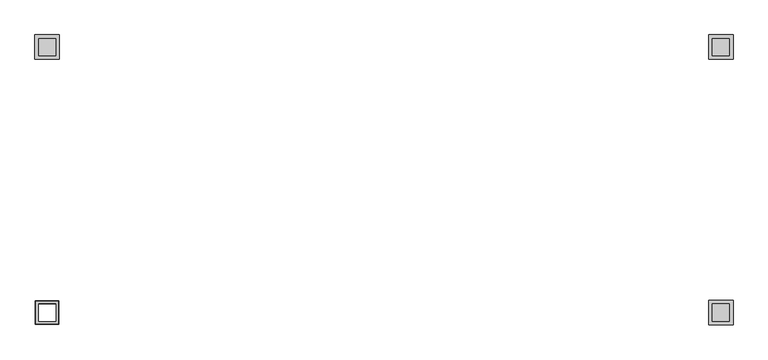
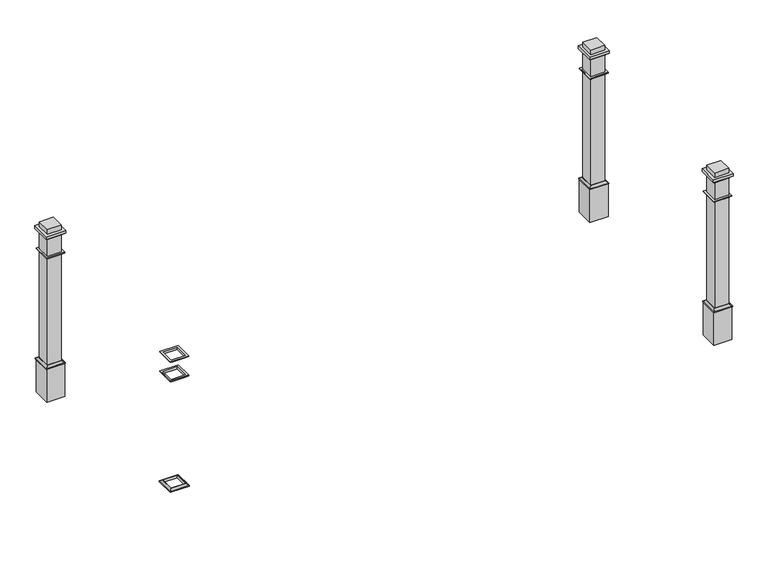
"""IFC4 building model written with IfcOpenShell, lengths in millimetres: railing geometry, Deco Type."""

from ifc_helpers import new_model, si_unit, frame, origin, place, context, project, spatial, polyline, ellipse_curve, outline, extrude, faceted_brep, source, transform, mapped, element, save
from ifc_brep_helpers import plane_surface, revolved_surface, advanced_brep


def railing_35e16d99(model_context):
    return source(origin(), model_context, "Body", "SolidModel", [
        advanced_brep(
        [(5407.8905852, -9796.5505549, 3149.6), (5287.2405852, -9796.5505549, 3149.6), (5287.2405852, -9796.5505549, 3171.825), (5407.8905852, -9796.5505549, 3171.825), (5430.1155852, -9818.7755549, 3155.95), (5265.0155852, -9818.7755549, 3155.95), (5265.0155852, -9818.7755549, 3149.6), (5430.1155852, -9818.7755549, 3149.6), (5414.2405852, -9802.9005549, 3171.825), (5280.8905852, -9802.9005549, 3171.825), (5287.2405852, -9675.9005549, 3149.6), (5287.2405852, -9675.9005549, 3171.825), (5265.0155852, -9653.6755549, 3155.95), (5265.0155852, -9653.6755549, 3149.6), (5280.8905852, -9669.5505549, 3171.825), (5407.8905852, -9675.9005549, 3149.6), (5407.8905852, -9675.9005549, 3171.825), (5430.1155852, -9653.6755549, 3155.95), (5430.1155852, -9653.6755549, 3149.6), (5414.2405852, -9669.5505549, 3171.825)],
        [
            (0, 1),
            (1, 2),
            (2, 3),
            (3, 0),
            (4, 5),
            (5, 6),
            (6, 7),
            (7, 4),
            (8, 9),
            (9, 5, ellipse_curve(frame((5265.0155852, -9818.7755549, 3171.825), z_axis=(-0.7071067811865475, 0.7071067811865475, 0.0), x_axis=(-0.7071067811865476, -0.7071067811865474, 0.0)), 22.4506403, 15.875)),
            (4, 8, ellipse_curve(frame((5430.1155852, -9818.7755549, 3171.825), z_axis=(0.7071067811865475, 0.7071067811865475, 0.0), x_axis=(-0.7071067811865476, 0.7071067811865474, 0.0)), 22.4506403, 15.875)),
            (1, 10),
            (10, 11),
            (11, 2),
            (5, 12),
            (12, 13),
            (13, 6),
            (9, 14),
            (14, 12, ellipse_curve(frame((5265.0155852, -9653.6755549, 3171.825), z_axis=(0.7071067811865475, 0.7071067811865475, 0.0), x_axis=(-0.7071067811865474, 0.7071067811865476, 0.0)), 22.4506403, 15.875)),
            (10, 15),
            (15, 16),
            (16, 11),
            (12, 17),
            (17, 18),
            (18, 13),
            (14, 19),
            (19, 17, ellipse_curve(frame((5430.1155852, -9653.6755549, 3171.825), z_axis=(0.7071067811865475, -0.7071067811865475, 0.0), x_axis=(0.7071067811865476, 0.7071067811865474, 0.0)), 22.4506403, 15.875)),
            (15, 0),
            (3, 16),
            (18, 7),
            (17, 4),
            (19, 8),
        ],
        [
            plane_surface(frame((5407.8905852, -9796.5505549, 3171.825), z_axis=(0.0, 1.0, 0.0), x_axis=(-1.0, 0.0, 0.0))),
            plane_surface(frame((5430.1155852, -9818.7755549, 3149.6), z_axis=(0.0, -1.0, 0.0), x_axis=(-1.0, 0.0, 0.0))),
            revolved_surface(polyline([(5249.14058520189, -9802.9005549, 3171.825), (5445.99058519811, -9802.9005549, 3171.825)]), (5407.8905852, -9818.7755549, 3171.825), (-1.0, 0.0, 0.0)),
            plane_surface(frame((5287.2405852, -9796.5505549, 3171.825), z_axis=(1.0, 0.0, 0.0), x_axis=(0.0, 1.0, 0.0))),
            plane_surface(frame((5265.0155852, -9818.7755549, 3149.6), z_axis=(-1.0, 0.0, 0.0), x_axis=(0.0, 1.0, 0.0))),
            revolved_surface(polyline([(5280.8905852, -9637.80055490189, 3171.825), (5280.8905852, -9834.65055489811, 3171.825)]), (5265.0155852, -9796.5505549, 3171.825), (0.0, 1.0, 0.0)),
            plane_surface(frame((5287.2405852, -9675.9005549, 3171.825), z_axis=(0.0, -1.0, 0.0), x_axis=(1.0, 0.0, 0.0))),
            plane_surface(frame((5265.0155852, -9653.6755549, 3149.6), z_axis=(0.0, 1.0, 0.0), x_axis=(1.0, 0.0, 0.0))),
            revolved_surface(polyline([(5445.99058519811, -9669.5505549, 3171.825), (5249.14058520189, -9669.5505549, 3171.825)]), (5287.2405852, -9653.6755549, 3171.825), (1.0, 0.0, 0.0)),
            plane_surface(frame((5407.8905852, -9675.9005549, 3171.825), z_axis=(-1.0, 0.0, 0.0), x_axis=(0.0, -1.0, 0.0))),
            plane_surface(frame((5407.8905852, -9675.9005549, 3149.6), z_axis=(0.0, 0.0, -1.0), x_axis=(0.0, -1.0, 0.0))),
            plane_surface(frame((5430.1155852, -9653.6755549, 3149.6), z_axis=(1.0, 0.0, 0.0), x_axis=(0.0, -1.0, 0.0))),
            revolved_surface(polyline([(5414.2405852, -9834.65055489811, 3171.825), (5414.2405852, -9637.80055490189, 3171.825)]), (5430.1155852, -9675.9005549, 3171.825), (0.0, -1.0, 0.0)),
            plane_surface(frame((5414.2405852, -9669.5505549, 3171.825), z_axis=(0.0, 0.0, 1.0), x_axis=(0.0, -1.0, 0.0))),
        ],
        [
            (0, [[1, 2, 3, 4]]),
            (1, [[5, 6, 7, 8]]),
            (2, [[9, 10, -5, 11]]),
            (3, [[12, 13, 14, -2]]),
            (4, [[15, 16, 17, -6]]),
            (5, [[18, 19, -15, -10]]),
            (6, [[20, 21, 22, -13]]),
            (7, [[23, 24, 25, -16]]),
            (8, [[26, 27, -23, -19]]),
            (9, [[28, -4, 29, -21]]),
            (10, [[-7, -17, -25, 30], [-1, -28, -20, -12]]),
            (11, [[31, -8, -30, -24]]),
            (12, [[32, -11, -31, -27]]),
            (13, [[-9, -32, -26, -18], [-3, -14, -22, -29]]),
        ],
    ),
        advanced_brep(
        [(5407.8905852, -9796.5505549, 4156.075), (5287.2405852, -9796.5505549, 4156.075), (5287.2405852, -9796.5505549, 4175.125), (5407.8905852, -9796.5505549, 4175.125), (5426.9405852, -9815.6005549, 4168.775), (5268.1905852, -9815.6005549, 4168.775), (5280.8905852, -9802.9005549, 4156.075), (5414.2405852, -9802.9005549, 4156.075), (5426.9405852, -9815.6005549, 4175.125), (5268.1905852, -9815.6005549, 4175.125), (5287.2405852, -9675.9005549, 4156.075), (5287.2405852, -9675.9005549, 4175.125), (5268.1905852, -9656.8505549, 4168.775), (5280.8905852, -9669.5505549, 4156.075), (5268.1905852, -9656.8505549, 4175.125), (5407.8905852, -9675.9005549, 4156.075), (5407.8905852, -9675.9005549, 4175.125), (5426.9405852, -9656.8505549, 4168.775), (5414.2405852, -9669.5505549, 4156.075), (5426.9405852, -9656.8505549, 4175.125)],
        [
            (0, 1),
            (1, 2),
            (2, 3),
            (3, 0),
            (4, 5),
            (5, 6, ellipse_curve(frame((5268.1905852, -9815.6005549, 4156.075), z_axis=(-0.7071067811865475, 0.7071067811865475, 0.0), x_axis=(-0.7071067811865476, -0.7071067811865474, 0.0)), 17.9605122, 12.7)),
            (6, 7),
            (7, 4, ellipse_curve(frame((5426.9405852, -9815.6005549, 4156.075), z_axis=(0.7071067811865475, 0.7071067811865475, 0.0), x_axis=(-0.7071067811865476, 0.7071067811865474, 0.0)), 17.9605122, 12.7)),
            (8, 9),
            (9, 5),
            (4, 8),
            (1, 10),
            (10, 11),
            (11, 2),
            (5, 12),
            (12, 13, ellipse_curve(frame((5268.1905852, -9656.8505549, 4156.075), z_axis=(0.7071067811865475, 0.7071067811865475, 0.0), x_axis=(-0.7071067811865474, 0.7071067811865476, 0.0)), 17.9605122, 12.7)),
            (13, 6),
            (9, 14),
            (14, 12),
            (10, 15),
            (15, 16),
            (16, 11),
            (12, 17),
            (17, 18, ellipse_curve(frame((5426.9405852, -9656.8505549, 4156.075), z_axis=(0.7071067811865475, -0.7071067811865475, 0.0), x_axis=(0.7071067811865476, 0.7071067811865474, 0.0)), 17.9605122, 12.7)),
            (18, 13),
            (14, 19),
            (19, 17),
            (8, 19),
            (16, 3),
            (15, 0),
            (18, 7),
            (17, 4),
        ],
        [
            plane_surface(frame((5407.8905852, -9796.5505549, 4175.125), z_axis=(0.0, 1.0, 0.0), x_axis=(-1.0, 0.0, 0.0))),
            revolved_surface(polyline([(5255.490585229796, -9802.9005549, 4156.075), (5439.640585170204, -9802.9005549, 4156.075)]), (5407.8905852, -9815.6005549, 4156.075), (-1.0, 0.0, 0.0)),
            plane_surface(frame((5426.9405852, -9815.6005549, 4168.775), z_axis=(0.0, -1.0, 0.0), x_axis=(-1.0, 0.0, 0.0))),
            plane_surface(frame((5287.2405852, -9796.5505549, 4175.125), z_axis=(1.0, 0.0, 0.0), x_axis=(0.0, 1.0, 0.0))),
            revolved_surface(polyline([(5280.8905852, -9644.150554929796, 4156.075), (5280.8905852, -9828.300554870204, 4156.075)]), (5268.1905852, -9796.5505549, 4156.075), (0.0, 1.0, 0.0)),
            plane_surface(frame((5268.1905852, -9815.6005549, 4168.775), z_axis=(-1.0, 0.0, 0.0), x_axis=(0.0, 1.0, 0.0))),
            plane_surface(frame((5287.2405852, -9675.9005549, 4175.125), z_axis=(0.0, -1.0, 0.0), x_axis=(1.0, 0.0, 0.0))),
            revolved_surface(polyline([(5439.640585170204, -9669.5505549, 4156.075), (5255.490585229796, -9669.5505549, 4156.075)]), (5287.2405852, -9656.8505549, 4156.075), (1.0, 0.0, 0.0)),
            plane_surface(frame((5268.1905852, -9656.8505549, 4168.775), z_axis=(0.0, 1.0, 0.0), x_axis=(1.0, 0.0, 0.0))),
            plane_surface(frame((5426.9405852, -9656.8505549, 4175.125), z_axis=(0.0, 0.0, 1.0), x_axis=(0.0, -1.0, 0.0))),
            plane_surface(frame((5407.8905852, -9675.9005549, 4175.125), z_axis=(-1.0, 0.0, 0.0), x_axis=(0.0, -1.0, 0.0))),
            plane_surface(frame((5407.8905852, -9675.9005549, 4156.075), z_axis=(0.0, 0.0, -1.0), x_axis=(0.0, -1.0, 0.0))),
            revolved_surface(polyline([(5414.2405852, -9828.300554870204, 4156.075), (5414.2405852, -9644.150554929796, 4156.075)]), (5426.9405852, -9675.9005549, 4156.075), (0.0, -1.0, 0.0)),
            plane_surface(frame((5426.9405852, -9656.8505549, 4168.775), z_axis=(1.0, 0.0, 0.0), x_axis=(0.0, -1.0, 0.0))),
        ],
        [
            (0, [[1, 2, 3, 4]]),
            (1, [[5, 6, 7, 8]]),
            (2, [[9, 10, -5, 11]]),
            (3, [[12, 13, 14, -2]]),
            (4, [[15, 16, 17, -6]]),
            (5, [[18, 19, -15, -10]]),
            (6, [[20, 21, 22, -13]]),
            (7, [[23, 24, 25, -16]]),
            (8, [[26, 27, -23, -19]]),
            (9, [[-9, 28, -26, -18], [-3, -14, -22, 29]]),
            (10, [[30, -4, -29, -21]]),
            (11, [[-7, -17, -25, 31], [-1, -30, -20, -12]]),
            (12, [[32, -8, -31, -24]]),
            (13, [[-28, -11, -32, -27]]),
        ],
    ),
        faceted_brep([(5407.8905852, -9796.5505549, 4333.875), (5287.2405852, -9796.5505549, 4333.875), (5287.2405852, -9796.5505549, 4352.925), (5407.8905852, -9796.5505549, 4352.925), (5414.2405852, -9802.9005549, 4346.575), (5280.8905852, -9802.9005549, 4346.575), (5280.8905852, -9802.9005549, 4333.875), (5414.2405852, -9802.9005549, 4333.875), (5426.9405852, -9815.6005549, 4352.925), (5268.1905852, -9815.6005549, 4352.925), (5268.1905852, -9815.6005549, 4346.575), (5426.9405852, -9815.6005549, 4346.575), (5287.2405852, -9675.9005549, 4333.875), (5287.2405852, -9675.9005549, 4352.925), (5280.8905852, -9669.5505549, 4346.575), (5280.8905852, -9669.5505549, 4333.875), (5268.1905852, -9656.8505549, 4352.925), (5268.1905852, -9656.8505549, 4346.575), (5407.8905852, -9675.9005549, 4333.875), (5407.8905852, -9675.9005549, 4352.925), (5414.2405852, -9669.5505549, 4346.575), (5414.2405852, -9669.5505549, 4333.875), (5426.9405852, -9656.8505549, 4352.925), (5426.9405852, -9656.8505549, 4346.575)], [[[0, 1, 2, 3]], [[4, 5, 6, 7]], [[8, 9, 10, 11]], [[1, 12, 13, 2]], [[5, 14, 15, 6]], [[9, 16, 17, 10]], [[12, 18, 19, 13]], [[14, 20, 21, 15]], [[16, 22, 23, 17]], [[18, 0, 3, 19]], [[7, 6, 15, 21], [1, 0, 18, 12]], [[20, 4, 7, 21]], [[11, 10, 17, 23], [5, 4, 20, 14]], [[22, 8, 11, 23]], [[9, 8, 22, 16], [3, 2, 13, 19]]]),
        extrude(outline(polyline([(10010.8468352, -9656.8505549), (10169.5968352, -9656.8505549), (10169.5968352, -9815.6005549), (10010.8468352, -9815.6005549), (10010.8468352, -9656.8505549)])), frame((0.0, 0.0, 2844.8), z_axis=(0.0, 0.0, 1.0), x_axis=(1.0, 0.0, 0.0)), (0.0, 0.0, 1.0), 304.8),
        extrude(outline(polyline([(10029.8968352, -9675.9005549), (10150.5468352, -9675.9005549), (10150.5468352, -9796.5505549), (10029.8968352, -9796.5505549), (10029.8968352, -9675.9005549)])), frame((0.0, 0.0, 3149.6), z_axis=(0.0, 0.0, 1.0), x_axis=(1.0, 0.0, 0.0)), (0.0, 0.0, 1.0), 1270.0),
        extrude(outline(polyline([(10175.9468352, -9650.5005549), (10175.9468352, -9821.9505549), (10004.4968352, -9821.9505549), (10004.4968352, -9650.5005549), (10175.9468352, -9650.5005549)]), holes=[polyline([(10150.5468352, -9796.5505549), (10150.5468352, -9675.9005549), (10029.8968352, -9675.9005549), (10029.8968352, -9796.5505549), (10150.5468352, -9796.5505549)])]), frame((0.0, 0.0, 4352.925), z_axis=(0.0, 0.0, 1.0), x_axis=(1.0, 0.0, 0.0)), (0.0, 0.0, 1.0), 25.4),
        advanced_brep(
        [(10150.5468352, -9675.9005549, 3149.6), (10150.5468352, -9796.5505549, 3149.6), (10150.5468352, -9796.5505549, 3171.825), (10150.5468352, -9675.9005549, 3171.825), (10172.7718352, -9653.6755549, 3155.95), (10172.7718352, -9818.7755549, 3155.95), (10172.7718352, -9818.7755549, 3149.6), (10172.7718352, -9653.6755549, 3149.6), (10156.8968352, -9669.5505549, 3171.825), (10156.8968352, -9802.9005549, 3171.825), (10029.8968352, -9796.5505549, 3149.6), (10029.8968352, -9796.5505549, 3171.825), (10007.6718352, -9818.7755549, 3155.95), (10007.6718352, -9818.7755549, 3149.6), (10023.5468352, -9802.9005549, 3171.825), (10029.8968352, -9675.9005549, 3149.6), (10029.8968352, -9675.9005549, 3171.825), (10007.6718352, -9653.6755549, 3155.95), (10007.6718352, -9653.6755549, 3149.6), (10023.5468352, -9669.5505549, 3171.825)],
        [
            (0, 1),
            (1, 2),
            (2, 3),
            (3, 0),
            (4, 5),
            (5, 6),
            (6, 7),
            (7, 4),
            (8, 9),
            (9, 5, ellipse_curve(frame((10172.7718352, -9818.7755549, 3171.825), z_axis=(-0.7071067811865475, -0.7071067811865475, 0.0), x_axis=(0.7071067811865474, -0.7071067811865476, 0.0)), 22.4506403, 15.875)),
            (4, 8, ellipse_curve(frame((10172.7718352, -9653.6755549, 3171.825), z_axis=(-0.7071067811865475, 0.7071067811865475, 0.0), x_axis=(-0.7071067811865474, -0.7071067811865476, 0.0)), 22.4506403, 15.875)),
            (1, 10),
            (10, 11),
            (11, 2),
            (5, 12),
            (12, 13),
            (13, 6),
            (9, 14),
            (14, 12, ellipse_curve(frame((10007.6718352, -9818.7755549, 3171.825), z_axis=(-0.7071067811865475, 0.7071067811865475, 0.0), x_axis=(-0.7071067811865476, -0.7071067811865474, 0.0)), 22.4506403, 15.875)),
            (10, 15),
            (15, 16),
            (16, 11),
            (12, 17),
            (17, 18),
            (18, 13),
            (14, 19),
            (19, 17, ellipse_curve(frame((10007.6718352, -9653.6755549, 3171.825), z_axis=(0.7071067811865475, 0.7071067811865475, 0.0), x_axis=(-0.7071067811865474, 0.7071067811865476, 0.0)), 22.4506403, 15.875)),
            (15, 0),
            (3, 16),
            (18, 7),
            (17, 4),
            (19, 8),
        ],
        [
            plane_surface(frame((10150.5468352, -9675.9005549, 3171.825), z_axis=(-1.0, 0.0, 0.0), x_axis=(0.0, -1.0, 0.0))),
            plane_surface(frame((10172.7718352, -9653.6755549, 3149.6), z_axis=(1.0, 0.0, 0.0), x_axis=(0.0, -1.0, 0.0))),
            revolved_surface(polyline([(10156.8968352, -9834.65055489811, 3171.825), (10156.8968352, -9637.80055490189, 3171.825)]), (10172.7718352, -9675.9005549, 3171.825), (0.0, -1.0, 0.0)),
            plane_surface(frame((10150.5468352, -9796.5505549, 3171.825), z_axis=(0.0, 1.0, 0.0), x_axis=(-1.0, 0.0, 0.0))),
            plane_surface(frame((10172.7718352, -9818.7755549, 3149.6), z_axis=(0.0, -1.0, 0.0), x_axis=(-1.0, 0.0, 0.0))),
            revolved_surface(polyline([(9991.79683520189, -9802.9005549, 3171.825), (10188.64683519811, -9802.9005549, 3171.825)]), (10150.5468352, -9818.7755549, 3171.825), (-1.0, 0.0, 0.0)),
            plane_surface(frame((10029.8968352, -9796.5505549, 3171.825), z_axis=(1.0, 0.0, 0.0), x_axis=(0.0, 1.0, 0.0))),
            plane_surface(frame((10007.6718352, -9818.7755549, 3149.6), z_axis=(-1.0, 0.0, 0.0), x_axis=(0.0, 1.0, 0.0))),
            revolved_surface(polyline([(10023.5468352, -9637.80055490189, 3171.825), (10023.5468352, -9834.65055489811, 3171.825)]), (10007.6718352, -9796.5505549, 3171.825), (0.0, 1.0, 0.0)),
            plane_surface(frame((10029.8968352, -9675.9005549, 3171.825), z_axis=(0.0, -1.0, 0.0), x_axis=(1.0, 0.0, 0.0))),
            plane_surface(frame((10029.8968352, -9675.9005549, 3149.6), z_axis=(0.0, 0.0, -1.0), x_axis=(1.0, 0.0, 0.0))),
            plane_surface(frame((10007.6718352, -9653.6755549, 3149.6), z_axis=(0.0, 1.0, 0.0), x_axis=(1.0, 0.0, 0.0))),
            revolved_surface(polyline([(10188.64683519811, -9669.5505549, 3171.825), (9991.79683520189, -9669.5505549, 3171.825)]), (10029.8968352, -9653.6755549, 3171.825), (1.0, 0.0, 0.0)),
            plane_surface(frame((10023.5468352, -9669.5505549, 3171.825), z_axis=(0.0, 0.0, 1.0), x_axis=(1.0, 0.0, 0.0))),
        ],
        [
            (0, [[1, 2, 3, 4]]),
            (1, [[5, 6, 7, 8]]),
            (2, [[9, 10, -5, 11]]),
            (3, [[12, 13, 14, -2]]),
            (4, [[15, 16, 17, -6]]),
            (5, [[18, 19, -15, -10]]),
            (6, [[20, 21, 22, -13]]),
            (7, [[23, 24, 25, -16]]),
            (8, [[26, 27, -23, -19]]),
            (9, [[28, -4, 29, -21]]),
            (10, [[-7, -17, -25, 30], [-1, -28, -20, -12]]),
            (11, [[31, -8, -30, -24]]),
            (12, [[32, -11, -31, -27]]),
            (13, [[-9, -32, -26, -18], [-3, -14, -22, -29]]),
        ],
    ),
        advanced_brep(
        [(10150.5468352, -9675.9005549, 4156.075), (10150.5468352, -9796.5505549, 4156.075), (10150.5468352, -9796.5505549, 4175.125), (10150.5468352, -9675.9005549, 4175.125), (10169.5968352, -9656.8505549, 4168.775), (10169.5968352, -9815.6005549, 4168.775), (10156.8968352, -9802.9005549, 4156.075), (10156.8968352, -9669.5505549, 4156.075), (10169.5968352, -9656.8505549, 4175.125), (10169.5968352, -9815.6005549, 4175.125), (10029.8968352, -9796.5505549, 4156.075), (10029.8968352, -9796.5505549, 4175.125), (10010.8468352, -9815.6005549, 4168.775), (10023.5468352, -9802.9005549, 4156.075), (10010.8468352, -9815.6005549, 4175.125), (10029.8968352, -9675.9005549, 4156.075), (10029.8968352, -9675.9005549, 4175.125), (10010.8468352, -9656.8505549, 4168.775), (10023.5468352, -9669.5505549, 4156.075), (10010.8468352, -9656.8505549, 4175.125)],
        [
            (0, 1),
            (1, 2),
            (2, 3),
            (3, 0),
            (4, 5),
            (5, 6, ellipse_curve(frame((10169.5968352, -9815.6005549, 4156.075), z_axis=(-0.7071067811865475, -0.7071067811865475, 0.0), x_axis=(0.7071067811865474, -0.7071067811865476, 0.0)), 17.9605122, 12.7)),
            (6, 7),
            (7, 4, ellipse_curve(frame((10169.5968352, -9656.8505549, 4156.075), z_axis=(-0.7071067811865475, 0.7071067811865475, 0.0), x_axis=(-0.7071067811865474, -0.7071067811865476, 0.0)), 17.9605122, 12.7)),
            (8, 9),
            (9, 5),
            (4, 8),
            (1, 10),
            (10, 11),
            (11, 2),
            (5, 12),
            (12, 13, ellipse_curve(frame((10010.8468352, -9815.6005549, 4156.075), z_axis=(-0.7071067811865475, 0.7071067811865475, 0.0), x_axis=(-0.7071067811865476, -0.7071067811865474, 0.0)), 17.9605122, 12.7)),
            (13, 6),
            (9, 14),
            (14, 12),
            (10, 15),
            (15, 16),
            (16, 11),
            (12, 17),
            (17, 18, ellipse_curve(frame((10010.8468352, -9656.8505549, 4156.075), z_axis=(0.7071067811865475, 0.7071067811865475, 0.0), x_axis=(-0.7071067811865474, 0.7071067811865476, 0.0)), 17.9605122, 12.7)),
            (18, 13),
            (14, 19),
            (19, 17),
            (8, 19),
            (16, 3),
            (15, 0),
            (18, 7),
            (17, 4),
        ],
        [
            plane_surface(frame((10150.5468352, -9675.9005549, 4175.125), z_axis=(-1.0, 0.0, 0.0), x_axis=(0.0, -1.0, 0.0))),
            revolved_surface(polyline([(10156.8968352, -9828.300554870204, 4156.075), (10156.8968352, -9644.150554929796, 4156.075)]), (10169.5968352, -9675.9005549, 4156.075), (0.0, -1.0, 0.0)),
            plane_surface(frame((10169.5968352, -9656.8505549, 4168.775), z_axis=(1.0, 0.0, 0.0), x_axis=(0.0, -1.0, 0.0))),
            plane_surface(frame((10150.5468352, -9796.5505549, 4175.125), z_axis=(0.0, 1.0, 0.0), x_axis=(-1.0, 0.0, 0.0))),
            revolved_surface(polyline([(9998.146835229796, -9802.9005549, 4156.075), (10182.296835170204, -9802.9005549, 4156.075)]), (10150.5468352, -9815.6005549, 4156.075), (-1.0, 0.0, 0.0)),
            plane_surface(frame((10169.5968352, -9815.6005549, 4168.775), z_axis=(0.0, -1.0, 0.0), x_axis=(-1.0, 0.0, 0.0))),
            plane_surface(frame((10029.8968352, -9796.5505549, 4175.125), z_axis=(1.0, 0.0, 0.0), x_axis=(0.0, 1.0, 0.0))),
            revolved_surface(polyline([(10023.5468352, -9644.150554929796, 4156.075), (10023.5468352, -9828.300554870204, 4156.075)]), (10010.8468352, -9796.5505549, 4156.075), (0.0, 1.0, 0.0)),
            plane_surface(frame((10010.8468352, -9815.6005549, 4168.775), z_axis=(-1.0, 0.0, 0.0), x_axis=(0.0, 1.0, 0.0))),
            plane_surface(frame((10010.8468352, -9656.8505549, 4175.125), z_axis=(0.0, 0.0, 1.0), x_axis=(1.0, 0.0, 0.0))),
            plane_surface(frame((10029.8968352, -9675.9005549, 4175.125), z_axis=(0.0, -1.0, 0.0), x_axis=(1.0, 0.0, 0.0))),
            plane_surface(frame((10029.8968352, -9675.9005549, 4156.075), z_axis=(0.0, 0.0, -1.0), x_axis=(1.0, 0.0, 0.0))),
            revolved_surface(polyline([(10182.296835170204, -9669.5505549, 4156.075), (9998.146835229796, -9669.5505549, 4156.075)]), (10029.8968352, -9656.8505549, 4156.075), (1.0, 0.0, 0.0)),
            plane_surface(frame((10010.8468352, -9656.8505549, 4168.775), z_axis=(0.0, 1.0, 0.0), x_axis=(1.0, 0.0, 0.0))),
        ],
        [
            (0, [[1, 2, 3, 4]]),
            (1, [[5, 6, 7, 8]]),
            (2, [[9, 10, -5, 11]]),
            (3, [[12, 13, 14, -2]]),
            (4, [[15, 16, 17, -6]]),
            (5, [[18, 19, -15, -10]]),
            (6, [[20, 21, 22, -13]]),
            (7, [[23, 24, 25, -16]]),
            (8, [[26, 27, -23, -19]]),
            (9, [[-9, 28, -26, -18], [-3, -14, -22, 29]]),
            (10, [[30, -4, -29, -21]]),
            (11, [[-7, -17, -25, 31], [-1, -30, -20, -12]]),
            (12, [[32, -8, -31, -24]]),
            (13, [[-28, -11, -32, -27]]),
        ],
    ),
        faceted_brep([(10150.5468352, -9675.9005549, 4333.875), (10150.5468352, -9796.5505549, 4333.875), (10150.5468352, -9796.5505549, 4352.925), (10150.5468352, -9675.9005549, 4352.925), (10156.8968352, -9669.5505549, 4346.575), (10156.8968352, -9802.9005549, 4346.575), (10156.8968352, -9802.9005549, 4333.875), (10156.8968352, -9669.5505549, 4333.875), (10169.5968352, -9656.8505549, 4352.925), (10169.5968352, -9815.6005549, 4352.925), (10169.5968352, -9815.6005549, 4346.575), (10169.5968352, -9656.8505549, 4346.575), (10029.8968352, -9796.5505549, 4333.875), (10029.8968352, -9796.5505549, 4352.925), (10023.5468352, -9802.9005549, 4346.575), (10023.5468352, -9802.9005549, 4333.875), (10010.8468352, -9815.6005549, 4352.925), (10010.8468352, -9815.6005549, 4346.575), (10029.8968352, -9675.9005549, 4333.875), (10029.8968352, -9675.9005549, 4352.925), (10023.5468352, -9669.5505549, 4346.575), (10023.5468352, -9669.5505549, 4333.875), (10010.8468352, -9656.8505549, 4352.925), (10010.8468352, -9656.8505549, 4346.575)], [[[0, 1, 2, 3]], [[4, 5, 6, 7]], [[8, 9, 10, 11]], [[1, 12, 13, 2]], [[5, 14, 15, 6]], [[9, 16, 17, 10]], [[12, 18, 19, 13]], [[14, 20, 21, 15]], [[16, 22, 23, 17]], [[18, 0, 3, 19]], [[7, 6, 15, 21], [1, 0, 18, 12]], [[20, 4, 7, 21]], [[11, 10, 17, 23], [5, 4, 20, 14]], [[22, 8, 11, 23]], [[9, 8, 22, 16], [3, 2, 13, 19]]]),
        extrude(outline(polyline([(5426.9405852, -7943.5411799), (5268.1905852, -7943.5411799), (5268.1905852, -7784.7911799), (5426.9405852, -7784.7911799), (5426.9405852, -7943.5411799)])), frame((0.0, 0.0, 2844.8), z_axis=(0.0, 0.0, 1.0), x_axis=(1.0, 0.0, 0.0)), (0.0, 0.0, 1.0), 304.8),
        extrude(outline(polyline([(5407.8905852, -7924.4911799), (5287.2405852, -7924.4911799), (5287.2405852, -7803.8411799), (5407.8905852, -7803.8411799), (5407.8905852, -7924.4911799)])), frame((0.0, 0.0, 3149.6), z_axis=(0.0, 0.0, 1.0), x_axis=(1.0, 0.0, 0.0)), (0.0, 0.0, 1.0), 1270.0),
        extrude(outline(polyline([(5261.8405852, -7949.8911799), (5261.8405852, -7778.4411799), (5433.2905852, -7778.4411799), (5433.2905852, -7949.8911799), (5261.8405852, -7949.8911799)]), holes=[polyline([(5287.2405852, -7803.8411799), (5287.2405852, -7924.4911799), (5407.8905852, -7924.4911799), (5407.8905852, -7803.8411799), (5287.2405852, -7803.8411799)])]), frame((0.0, 0.0, 4352.925), z_axis=(0.0, 0.0, 1.0), x_axis=(1.0, 0.0, 0.0)), (0.0, 0.0, 1.0), 25.4),
        advanced_brep(
        [(5287.2405852, -7924.4911799, 3149.6), (5287.2405852, -7803.8411799, 3149.6), (5287.2405852, -7803.8411799, 3171.825), (5287.2405852, -7924.4911799, 3171.825), (5265.0155852, -7946.7161799, 3155.95), (5265.0155852, -7781.6161799, 3155.95), (5265.0155852, -7781.6161799, 3149.6), (5265.0155852, -7946.7161799, 3149.6), (5280.8905852, -7930.8411799, 3171.825), (5280.8905852, -7797.4911799, 3171.825), (5407.8905852, -7803.8411799, 3149.6), (5407.8905852, -7803.8411799, 3171.825), (5430.1155852, -7781.6161799, 3155.95), (5430.1155852, -7781.6161799, 3149.6), (5414.2405852, -7797.4911799, 3171.825), (5407.8905852, -7924.4911799, 3149.6), (5407.8905852, -7924.4911799, 3171.825), (5430.1155852, -7946.7161799, 3155.95), (5430.1155852, -7946.7161799, 3149.6), (5414.2405852, -7930.8411799, 3171.825)],
        [
            (0, 1),
            (1, 2),
            (2, 3),
            (3, 0),
            (4, 5),
            (5, 6),
            (6, 7),
            (7, 4),
            (8, 9),
            (9, 5, ellipse_curve(frame((5265.0155852, -7781.6161799, 3171.825), z_axis=(0.7071067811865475, 0.7071067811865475, 0.0), x_axis=(-0.7071067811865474, 0.7071067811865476, 0.0)), 22.4506403, 15.875)),
            (4, 8, ellipse_curve(frame((5265.0155852, -7946.7161799, 3171.825), z_axis=(0.7071067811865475, -0.7071067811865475, 0.0), x_axis=(0.7071067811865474, 0.7071067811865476, 0.0)), 22.4506403, 15.875)),
            (1, 10),
            (10, 11),
            (11, 2),
            (5, 12),
            (12, 13),
            (13, 6),
            (9, 14),
            (14, 12, ellipse_curve(frame((5430.1155852, -7781.6161799, 3171.825), z_axis=(0.7071067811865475, -0.7071067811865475, 0.0), x_axis=(0.7071067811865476, 0.7071067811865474, 0.0)), 22.4506403, 15.875)),
            (10, 15),
            (15, 16),
            (16, 11),
            (12, 17),
            (17, 18),
            (18, 13),
            (14, 19),
            (19, 17, ellipse_curve(frame((5430.1155852, -7946.7161799, 3171.825), z_axis=(-0.7071067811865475, -0.7071067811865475, 0.0), x_axis=(0.7071067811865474, -0.7071067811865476, 0.0)), 22.4506403, 15.875)),
            (15, 0),
            (3, 16),
            (18, 7),
            (17, 4),
            (19, 8),
        ],
        [
            plane_surface(frame((5287.2405852, -7924.4911799, 3171.825), z_axis=(1.0, 0.0, 0.0), x_axis=(0.0, 1.0, 0.0))),
            plane_surface(frame((5265.0155852, -7946.7161799, 3149.6), z_axis=(-1.0, 0.0, 0.0), x_axis=(0.0, 1.0, 0.0))),
            revolved_surface(polyline([(5280.8905852, -7765.74117990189, 3171.825), (5280.8905852, -7962.59117989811, 3171.825)]), (5265.0155852, -7924.4911799, 3171.825), (0.0, 1.0, 0.0)),
            plane_surface(frame((5287.2405852, -7803.8411799, 3171.825), z_axis=(0.0, -1.0, 0.0), x_axis=(1.0, 0.0, 0.0))),
            plane_surface(frame((5265.0155852, -7781.6161799, 3149.6), z_axis=(0.0, 1.0, 0.0), x_axis=(1.0, 0.0, 0.0))),
            revolved_surface(polyline([(5445.99058519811, -7797.4911799, 3171.825), (5249.14058520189, -7797.4911799, 3171.825)]), (5287.2405852, -7781.6161799, 3171.825), (1.0, 0.0, 0.0)),
            plane_surface(frame((5407.8905852, -7803.8411799, 3171.825), z_axis=(-1.0, 0.0, 0.0), x_axis=(0.0, -1.0, 0.0))),
            plane_surface(frame((5430.1155852, -7781.6161799, 3149.6), z_axis=(1.0, 0.0, 0.0), x_axis=(0.0, -1.0, 0.0))),
            revolved_surface(polyline([(5414.2405852, -7962.59117989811, 3171.825), (5414.2405852, -7765.74117990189, 3171.825)]), (5430.1155852, -7803.8411799, 3171.825), (0.0, -1.0, 0.0)),
            plane_surface(frame((5407.8905852, -7924.4911799, 3171.825), z_axis=(0.0, 1.0, 0.0), x_axis=(-1.0, 0.0, 0.0))),
            plane_surface(frame((5407.8905852, -7924.4911799, 3149.6), z_axis=(0.0, 0.0, -1.0), x_axis=(-1.0, 0.0, 0.0))),
            plane_surface(frame((5430.1155852, -7946.7161799, 3149.6), z_axis=(0.0, -1.0, 0.0), x_axis=(-1.0, 0.0, 0.0))),
            revolved_surface(polyline([(5249.14058520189, -7930.8411799, 3171.825), (5445.99058519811, -7930.8411799, 3171.825)]), (5407.8905852, -7946.7161799, 3171.825), (-1.0, 0.0, 0.0)),
            plane_surface(frame((5414.2405852, -7930.8411799, 3171.825), z_axis=(0.0, 0.0, 1.0), x_axis=(-1.0, 0.0, 0.0))),
        ],
        [
            (0, [[1, 2, 3, 4]]),
            (1, [[5, 6, 7, 8]]),
            (2, [[9, 10, -5, 11]]),
            (3, [[12, 13, 14, -2]]),
            (4, [[15, 16, 17, -6]]),
            (5, [[18, 19, -15, -10]]),
            (6, [[20, 21, 22, -13]]),
            (7, [[23, 24, 25, -16]]),
            (8, [[26, 27, -23, -19]]),
            (9, [[28, -4, 29, -21]]),
            (10, [[-7, -17, -25, 30], [-1, -28, -20, -12]]),
            (11, [[31, -8, -30, -24]]),
            (12, [[32, -11, -31, -27]]),
            (13, [[-9, -32, -26, -18], [-3, -14, -22, -29]]),
        ],
    ),
        advanced_brep(
        [(5287.2405852, -7924.4911799, 4156.075), (5287.2405852, -7803.8411799, 4156.075), (5287.2405852, -7803.8411799, 4175.125), (5287.2405852, -7924.4911799, 4175.125), (5268.1905852, -7943.5411799, 4168.775), (5268.1905852, -7784.7911799, 4168.775), (5280.8905852, -7797.4911799, 4156.075), (5280.8905852, -7930.8411799, 4156.075), (5268.1905852, -7943.5411799, 4175.125), (5268.1905852, -7784.7911799, 4175.125), (5407.8905852, -7803.8411799, 4156.075), (5407.8905852, -7803.8411799, 4175.125), (5426.9405852, -7784.7911799, 4168.775), (5414.2405852, -7797.4911799, 4156.075), (5426.9405852, -7784.7911799, 4175.125), (5407.8905852, -7924.4911799, 4156.075), (5407.8905852, -7924.4911799, 4175.125), (5426.9405852, -7943.5411799, 4168.775), (5414.2405852, -7930.8411799, 4156.075), (5426.9405852, -7943.5411799, 4175.125)],
        [
            (0, 1),
            (1, 2),
            (2, 3),
            (3, 0),
            (4, 5),
            (5, 6, ellipse_curve(frame((5268.1905852, -7784.7911799, 4156.075), z_axis=(0.7071067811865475, 0.7071067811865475, 0.0), x_axis=(-0.7071067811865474, 0.7071067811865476, 0.0)), 17.9605122, 12.7)),
            (6, 7),
            (7, 4, ellipse_curve(frame((5268.1905852, -7943.5411799, 4156.075), z_axis=(0.7071067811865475, -0.7071067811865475, 0.0), x_axis=(0.7071067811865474, 0.7071067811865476, 0.0)), 17.9605122, 12.7)),
            (8, 9),
            (9, 5),
            (4, 8),
            (1, 10),
            (10, 11),
            (11, 2),
            (5, 12),
            (12, 13, ellipse_curve(frame((5426.9405852, -7784.7911799, 4156.075), z_axis=(0.7071067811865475, -0.7071067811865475, 0.0), x_axis=(0.7071067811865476, 0.7071067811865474, 0.0)), 17.9605122, 12.7)),
            (13, 6),
            (9, 14),
            (14, 12),
            (10, 15),
            (15, 16),
            (16, 11),
            (12, 17),
            (17, 18, ellipse_curve(frame((5426.9405852, -7943.5411799, 4156.075), z_axis=(-0.7071067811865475, -0.7071067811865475, 0.0), x_axis=(0.7071067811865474, -0.7071067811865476, 0.0)), 17.9605122, 12.7)),
            (18, 13),
            (14, 19),
            (19, 17),
            (8, 19),
            (16, 3),
            (15, 0),
            (18, 7),
            (17, 4),
        ],
        [
            plane_surface(frame((5287.2405852, -7924.4911799, 4175.125), z_axis=(1.0, 0.0, 0.0), x_axis=(0.0, 1.0, 0.0))),
            revolved_surface(polyline([(5280.8905852, -7772.091179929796, 4156.075), (5280.8905852, -7956.241179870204, 4156.075)]), (5268.1905852, -7924.4911799, 4156.075), (0.0, 1.0, 0.0)),
            plane_surface(frame((5268.1905852, -7943.5411799, 4168.775), z_axis=(-1.0, 0.0, 0.0), x_axis=(0.0, 1.0, 0.0))),
            plane_surface(frame((5287.2405852, -7803.8411799, 4175.125), z_axis=(0.0, -1.0, 0.0), x_axis=(1.0, 0.0, 0.0))),
            revolved_surface(polyline([(5439.640585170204, -7797.4911799, 4156.075), (5255.490585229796, -7797.4911799, 4156.075)]), (5287.2405852, -7784.7911799, 4156.075), (1.0, 0.0, 0.0)),
            plane_surface(frame((5268.1905852, -7784.7911799, 4168.775), z_axis=(0.0, 1.0, 0.0), x_axis=(1.0, 0.0, 0.0))),
            plane_surface(frame((5407.8905852, -7803.8411799, 4175.125), z_axis=(-1.0, 0.0, 0.0), x_axis=(0.0, -1.0, 0.0))),
            revolved_surface(polyline([(5414.2405852, -7956.241179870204, 4156.075), (5414.2405852, -7772.091179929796, 4156.075)]), (5426.9405852, -7803.8411799, 4156.075), (0.0, -1.0, 0.0)),
            plane_surface(frame((5426.9405852, -7784.7911799, 4168.775), z_axis=(1.0, 0.0, 0.0), x_axis=(0.0, -1.0, 0.0))),
            plane_surface(frame((5426.9405852, -7943.5411799, 4175.125), z_axis=(0.0, 0.0, 1.0), x_axis=(-1.0, 0.0, 0.0))),
            plane_surface(frame((5407.8905852, -7924.4911799, 4175.125), z_axis=(0.0, 1.0, 0.0), x_axis=(-1.0, 0.0, 0.0))),
            plane_surface(frame((5407.8905852, -7924.4911799, 4156.075), z_axis=(0.0, 0.0, -1.0), x_axis=(-1.0, 0.0, 0.0))),
            revolved_surface(polyline([(5255.490585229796, -7930.8411799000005, 4156.075), (5439.640585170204, -7930.8411799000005, 4156.075)]), (5407.8905852, -7943.5411799, 4156.075), (-1.0, 0.0, 0.0)),
            plane_surface(frame((5426.9405852, -7943.5411799, 4168.775), z_axis=(0.0, -1.0, 0.0), x_axis=(-1.0, 0.0, 0.0))),
        ],
        [
            (0, [[1, 2, 3, 4]]),
            (1, [[5, 6, 7, 8]]),
            (2, [[9, 10, -5, 11]]),
            (3, [[12, 13, 14, -2]]),
            (4, [[15, 16, 17, -6]]),
            (5, [[18, 19, -15, -10]]),
            (6, [[20, 21, 22, -13]]),
            (7, [[23, 24, 25, -16]]),
            (8, [[26, 27, -23, -19]]),
            (9, [[-9, 28, -26, -18], [-3, -14, -22, 29]]),
            (10, [[30, -4, -29, -21]]),
            (11, [[-7, -17, -25, 31], [-1, -30, -20, -12]]),
            (12, [[32, -8, -31, -24]]),
            (13, [[-28, -11, -32, -27]]),
        ],
    ),
        faceted_brep([(5287.2405852, -7924.4911799, 4333.875), (5287.2405852, -7803.8411799, 4333.875), (5287.2405852, -7803.8411799, 4352.925), (5287.2405852, -7924.4911799, 4352.925), (5280.8905852, -7930.8411799, 4346.575), (5280.8905852, -7797.4911799, 4346.575), (5280.8905852, -7797.4911799, 4333.875), (5280.8905852, -7930.8411799, 4333.875), (5268.1905852, -7943.5411799, 4352.925), (5268.1905852, -7784.7911799, 4352.925), (5268.1905852, -7784.7911799, 4346.575), (5268.1905852, -7943.5411799, 4346.575), (5407.8905852, -7803.8411799, 4333.875), (5407.8905852, -7803.8411799, 4352.925), (5414.2405852, -7797.4911799, 4346.575), (5414.2405852, -7797.4911799, 4333.875), (5426.9405852, -7784.7911799, 4352.925), (5426.9405852, -7784.7911799, 4346.575), (5407.8905852, -7924.4911799, 4333.875), (5407.8905852, -7924.4911799, 4352.925), (5414.2405852, -7930.8411799, 4346.575), (5414.2405852, -7930.8411799, 4333.875), (5426.9405852, -7943.5411799, 4352.925), (5426.9405852, -7943.5411799, 4346.575)], [[[0, 1, 2, 3]], [[4, 5, 6, 7]], [[8, 9, 10, 11]], [[1, 12, 13, 2]], [[5, 14, 15, 6]], [[9, 16, 17, 10]], [[12, 18, 19, 13]], [[14, 20, 21, 15]], [[16, 22, 23, 17]], [[18, 0, 3, 19]], [[7, 6, 15, 21], [1, 0, 18, 12]], [[20, 4, 7, 21]], [[11, 10, 17, 23], [5, 4, 20, 14]], [[22, 8, 11, 23]], [[9, 8, 22, 16], [3, 2, 13, 19]]]),
        extrude(outline(polyline([(10010.8468352, -7784.7911799), (10169.5968352, -7784.7911799), (10169.5968352, -7943.5411799), (10010.8468352, -7943.5411799), (10010.8468352, -7784.7911799)])), frame((0.0, 0.0, 2844.8), z_axis=(0.0, 0.0, 1.0), x_axis=(1.0, 0.0, 0.0)), (0.0, 0.0, 1.0), 304.8),
        extrude(outline(polyline([(10029.8968352, -7803.8411799), (10150.5468352, -7803.8411799), (10150.5468352, -7924.4911799), (10029.8968352, -7924.4911799), (10029.8968352, -7803.8411799)])), frame((0.0, 0.0, 3149.6), z_axis=(0.0, 0.0, 1.0), x_axis=(1.0, 0.0, 0.0)), (0.0, 0.0, 1.0), 1270.0),
        extrude(outline(polyline([(10175.9468352, -7778.4411799), (10175.9468352, -7949.8911799), (10004.4968352, -7949.8911799), (10004.4968352, -7778.4411799), (10175.9468352, -7778.4411799)]), holes=[polyline([(10150.5468352, -7924.4911799), (10150.5468352, -7803.8411799), (10029.8968352, -7803.8411799), (10029.8968352, -7924.4911799), (10150.5468352, -7924.4911799)])]), frame((0.0, 0.0, 4352.925), z_axis=(0.0, 0.0, 1.0), x_axis=(1.0, 0.0, 0.0)), (0.0, 0.0, 1.0), 25.4),
        advanced_brep(
        [(10150.5468352, -7803.8411799, 3149.6), (10150.5468352, -7924.4911799, 3149.6), (10150.5468352, -7924.4911799, 3171.825), (10150.5468352, -7803.8411799, 3171.825), (10172.7718352, -7781.6161799, 3155.95), (10172.7718352, -7946.7161799, 3155.95), (10172.7718352, -7946.7161799, 3149.6), (10172.7718352, -7781.6161799, 3149.6), (10156.8968352, -7797.4911799, 3171.825), (10156.8968352, -7930.8411799, 3171.825), (10029.8968352, -7924.4911799, 3149.6), (10029.8968352, -7924.4911799, 3171.825), (10007.6718352, -7946.7161799, 3155.95), (10007.6718352, -7946.7161799, 3149.6), (10023.5468352, -7930.8411799, 3171.825), (10029.8968352, -7803.8411799, 3149.6), (10029.8968352, -7803.8411799, 3171.825), (10007.6718352, -7781.6161799, 3155.95), (10007.6718352, -7781.6161799, 3149.6), (10023.5468352, -7797.4911799, 3171.825)],
        [
            (0, 1),
            (1, 2),
            (2, 3),
            (3, 0),
            (4, 5),
            (5, 6),
            (6, 7),
            (7, 4),
            (8, 9),
            (9, 5, ellipse_curve(frame((10172.7718352, -7946.7161799, 3171.825), z_axis=(-0.7071067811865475, -0.7071067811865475, 0.0), x_axis=(0.7071067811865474, -0.7071067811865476, 0.0)), 22.4506403, 15.875)),
            (4, 8, ellipse_curve(frame((10172.7718352, -7781.6161799, 3171.825), z_axis=(-0.7071067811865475, 0.7071067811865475, 0.0), x_axis=(-0.7071067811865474, -0.7071067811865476, 0.0)), 22.4506403, 15.875)),
            (1, 10),
            (10, 11),
            (11, 2),
            (5, 12),
            (12, 13),
            (13, 6),
            (9, 14),
            (14, 12, ellipse_curve(frame((10007.6718352, -7946.7161799, 3171.825), z_axis=(-0.7071067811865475, 0.7071067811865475, 0.0), x_axis=(-0.7071067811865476, -0.7071067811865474, 0.0)), 22.4506403, 15.875)),
            (10, 15),
            (15, 16),
            (16, 11),
            (12, 17),
            (17, 18),
            (18, 13),
            (14, 19),
            (19, 17, ellipse_curve(frame((10007.6718352, -7781.6161799, 3171.825), z_axis=(0.7071067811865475, 0.7071067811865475, 0.0), x_axis=(-0.7071067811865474, 0.7071067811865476, 0.0)), 22.4506403, 15.875)),
            (15, 0),
            (3, 16),
            (18, 7),
            (17, 4),
            (19, 8),
        ],
        [
            plane_surface(frame((10150.5468352, -7803.8411799, 3171.825), z_axis=(-1.0, 0.0, 0.0), x_axis=(0.0, -1.0, 0.0))),
            plane_surface(frame((10172.7718352, -7781.6161799, 3149.6), z_axis=(1.0, 0.0, 0.0), x_axis=(0.0, -1.0, 0.0))),
            revolved_surface(polyline([(10156.8968352, -7962.59117989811, 3171.825), (10156.8968352, -7765.74117990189, 3171.825)]), (10172.7718352, -7803.8411799, 3171.825), (0.0, -1.0, 0.0)),
            plane_surface(frame((10150.5468352, -7924.4911799, 3171.825), z_axis=(0.0, 1.0, 0.0), x_axis=(-1.0, 0.0, 0.0))),
            plane_surface(frame((10172.7718352, -7946.7161799, 3149.6), z_axis=(0.0, -1.0, 0.0), x_axis=(-1.0, 0.0, 0.0))),
            revolved_surface(polyline([(9991.79683520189, -7930.8411799, 3171.825), (10188.64683519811, -7930.8411799, 3171.825)]), (10150.5468352, -7946.7161799, 3171.825), (-1.0, 0.0, 0.0)),
            plane_surface(frame((10029.8968352, -7924.4911799, 3171.825), z_axis=(1.0, 0.0, 0.0), x_axis=(0.0, 1.0, 0.0))),
            plane_surface(frame((10007.6718352, -7946.7161799, 3149.6), z_axis=(-1.0, 0.0, 0.0), x_axis=(0.0, 1.0, 0.0))),
            revolved_surface(polyline([(10023.5468352, -7765.74117990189, 3171.825), (10023.5468352, -7962.59117989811, 3171.825)]), (10007.6718352, -7924.4911799, 3171.825), (0.0, 1.0, 0.0)),
            plane_surface(frame((10029.8968352, -7803.8411799, 3171.825), z_axis=(0.0, -1.0, 0.0), x_axis=(1.0, 0.0, 0.0))),
            plane_surface(frame((10029.8968352, -7803.8411799, 3149.6), z_axis=(0.0, 0.0, -1.0), x_axis=(1.0, 0.0, 0.0))),
            plane_surface(frame((10007.6718352, -7781.6161799, 3149.6), z_axis=(0.0, 1.0, 0.0), x_axis=(1.0, 0.0, 0.0))),
            revolved_surface(polyline([(10188.64683519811, -7797.4911799, 3171.825), (9991.79683520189, -7797.4911799, 3171.825)]), (10029.8968352, -7781.6161799, 3171.825), (1.0, 0.0, 0.0)),
            plane_surface(frame((10023.5468352, -7797.4911799, 3171.825), z_axis=(0.0, 0.0, 1.0), x_axis=(1.0, 0.0, 0.0))),
        ],
        [
            (0, [[1, 2, 3, 4]]),
            (1, [[5, 6, 7, 8]]),
            (2, [[9, 10, -5, 11]]),
            (3, [[12, 13, 14, -2]]),
            (4, [[15, 16, 17, -6]]),
            (5, [[18, 19, -15, -10]]),
            (6, [[20, 21, 22, -13]]),
            (7, [[23, 24, 25, -16]]),
            (8, [[26, 27, -23, -19]]),
            (9, [[28, -4, 29, -21]]),
            (10, [[-7, -17, -25, 30], [-1, -28, -20, -12]]),
            (11, [[31, -8, -30, -24]]),
            (12, [[32, -11, -31, -27]]),
            (13, [[-9, -32, -26, -18], [-3, -14, -22, -29]]),
        ],
    ),
        advanced_brep(
        [(10150.5468352, -7803.8411799, 4156.075), (10150.5468352, -7924.4911799, 4156.075), (10150.5468352, -7924.4911799, 4175.125), (10150.5468352, -7803.8411799, 4175.125), (10169.5968352, -7784.7911799, 4168.775), (10169.5968352, -7943.5411799, 4168.775), (10156.8968352, -7930.8411799, 4156.075), (10156.8968352, -7797.4911799, 4156.075), (10169.5968352, -7784.7911799, 4175.125), (10169.5968352, -7943.5411799, 4175.125), (10029.8968352, -7924.4911799, 4156.075), (10029.8968352, -7924.4911799, 4175.125), (10010.8468352, -7943.5411799, 4168.775), (10023.5468352, -7930.8411799, 4156.075), (10010.8468352, -7943.5411799, 4175.125), (10029.8968352, -7803.8411799, 4156.075), (10029.8968352, -7803.8411799, 4175.125), (10010.8468352, -7784.7911799, 4168.775), (10023.5468352, -7797.4911799, 4156.075), (10010.8468352, -7784.7911799, 4175.125)],
        [
            (0, 1),
            (1, 2),
            (2, 3),
            (3, 0),
            (4, 5),
            (5, 6, ellipse_curve(frame((10169.5968352, -7943.5411799, 4156.075), z_axis=(-0.7071067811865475, -0.7071067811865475, 0.0), x_axis=(0.7071067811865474, -0.7071067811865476, 0.0)), 17.9605122, 12.7)),
            (6, 7),
            (7, 4, ellipse_curve(frame((10169.5968352, -7784.7911799, 4156.075), z_axis=(-0.7071067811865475, 0.7071067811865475, 0.0), x_axis=(-0.7071067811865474, -0.7071067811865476, 0.0)), 17.9605122, 12.7)),
            (8, 9),
            (9, 5),
            (4, 8),
            (1, 10),
            (10, 11),
            (11, 2),
            (5, 12),
            (12, 13, ellipse_curve(frame((10010.8468352, -7943.5411799, 4156.075), z_axis=(-0.7071067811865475, 0.7071067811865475, 0.0), x_axis=(-0.7071067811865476, -0.7071067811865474, 0.0)), 17.9605122, 12.7)),
            (13, 6),
            (9, 14),
            (14, 12),
            (10, 15),
            (15, 16),
            (16, 11),
            (12, 17),
            (17, 18, ellipse_curve(frame((10010.8468352, -7784.7911799, 4156.075), z_axis=(0.7071067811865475, 0.7071067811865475, 0.0), x_axis=(-0.7071067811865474, 0.7071067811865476, 0.0)), 17.9605122, 12.7)),
            (18, 13),
            (14, 19),
            (19, 17),
            (8, 19),
            (16, 3),
            (15, 0),
            (18, 7),
            (17, 4),
        ],
        [
            plane_surface(frame((10150.5468352, -7803.8411799, 4175.125), z_axis=(-1.0, 0.0, 0.0), x_axis=(0.0, -1.0, 0.0))),
            revolved_surface(polyline([(10156.8968352, -7956.241179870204, 4156.075), (10156.8968352, -7772.091179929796, 4156.075)]), (10169.5968352, -7803.8411799, 4156.075), (0.0, -1.0, 0.0)),
            plane_surface(frame((10169.5968352, -7784.7911799, 4168.775), z_axis=(1.0, 0.0, 0.0), x_axis=(0.0, -1.0, 0.0))),
            plane_surface(frame((10150.5468352, -7924.4911799, 4175.125), z_axis=(0.0, 1.0, 0.0), x_axis=(-1.0, 0.0, 0.0))),
            revolved_surface(polyline([(9998.146835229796, -7930.8411799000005, 4156.075), (10182.296835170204, -7930.8411799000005, 4156.075)]), (10150.5468352, -7943.5411799, 4156.075), (-1.0, 0.0, 0.0)),
            plane_surface(frame((10169.5968352, -7943.5411799, 4168.775), z_axis=(0.0, -1.0, 0.0), x_axis=(-1.0, 0.0, 0.0))),
            plane_surface(frame((10029.8968352, -7924.4911799, 4175.125), z_axis=(1.0, 0.0, 0.0), x_axis=(0.0, 1.0, 0.0))),
            revolved_surface(polyline([(10023.5468352, -7772.091179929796, 4156.075), (10023.5468352, -7956.241179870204, 4156.075)]), (10010.8468352, -7924.4911799, 4156.075), (0.0, 1.0, 0.0)),
            plane_surface(frame((10010.8468352, -7943.5411799, 4168.775), z_axis=(-1.0, 0.0, 0.0), x_axis=(0.0, 1.0, 0.0))),
            plane_surface(frame((10010.8468352, -7784.7911799, 4175.125), z_axis=(0.0, 0.0, 1.0), x_axis=(1.0, 0.0, 0.0))),
            plane_surface(frame((10029.8968352, -7803.8411799, 4175.125), z_axis=(0.0, -1.0, 0.0), x_axis=(1.0, 0.0, 0.0))),
            plane_surface(frame((10029.8968352, -7803.8411799, 4156.075), z_axis=(0.0, 0.0, -1.0), x_axis=(1.0, 0.0, 0.0))),
            revolved_surface(polyline([(10182.296835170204, -7797.4911799, 4156.075), (9998.146835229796, -7797.4911799, 4156.075)]), (10029.8968352, -7784.7911799, 4156.075), (1.0, 0.0, 0.0)),
            plane_surface(frame((10010.8468352, -7784.7911799, 4168.775), z_axis=(0.0, 1.0, 0.0), x_axis=(1.0, 0.0, 0.0))),
        ],
        [
            (0, [[1, 2, 3, 4]]),
            (1, [[5, 6, 7, 8]]),
            (2, [[9, 10, -5, 11]]),
            (3, [[12, 13, 14, -2]]),
            (4, [[15, 16, 17, -6]]),
            (5, [[18, 19, -15, -10]]),
            (6, [[20, 21, 22, -13]]),
            (7, [[23, 24, 25, -16]]),
            (8, [[26, 27, -23, -19]]),
            (9, [[-9, 28, -26, -18], [-3, -14, -22, 29]]),
            (10, [[30, -4, -29, -21]]),
            (11, [[-7, -17, -25, 31], [-1, -30, -20, -12]]),
            (12, [[32, -8, -31, -24]]),
            (13, [[-28, -11, -32, -27]]),
        ],
    ),
        faceted_brep([(10150.5468352, -7803.8411799, 4333.875), (10150.5468352, -7924.4911799, 4333.875), (10150.5468352, -7924.4911799, 4352.925), (10150.5468352, -7803.8411799, 4352.925), (10156.8968352, -7797.4911799, 4346.575), (10156.8968352, -7930.8411799, 4346.575), (10156.8968352, -7930.8411799, 4333.875), (10156.8968352, -7797.4911799, 4333.875), (10169.5968352, -7784.7911799, 4352.925), (10169.5968352, -7943.5411799, 4352.925), (10169.5968352, -7943.5411799, 4346.575), (10169.5968352, -7784.7911799, 4346.575), (10029.8968352, -7924.4911799, 4333.875), (10029.8968352, -7924.4911799, 4352.925), (10023.5468352, -7930.8411799, 4346.575), (10023.5468352, -7930.8411799, 4333.875), (10010.8468352, -7943.5411799, 4352.925), (10010.8468352, -7943.5411799, 4346.575), (10029.8968352, -7803.8411799, 4333.875), (10029.8968352, -7803.8411799, 4352.925), (10023.5468352, -7797.4911799, 4346.575), (10023.5468352, -7797.4911799, 4333.875), (10010.8468352, -7784.7911799, 4352.925), (10010.8468352, -7784.7911799, 4346.575)], [[[0, 1, 2, 3]], [[4, 5, 6, 7]], [[8, 9, 10, 11]], [[1, 12, 13, 2]], [[5, 14, 15, 6]], [[9, 16, 17, 10]], [[12, 18, 19, 13]], [[14, 20, 21, 15]], [[16, 22, 23, 17]], [[18, 0, 3, 19]], [[7, 6, 15, 21], [1, 0, 18, 12]], [[20, 4, 7, 21]], [[11, 10, 17, 23], [5, 4, 20, 14]], [[22, 8, 11, 23]], [[9, 8, 22, 16], [3, 2, 13, 19]]]),
    ])


if __name__ == "__main__":
    model = new_model("IFC4")
    model_context = context("Model", 3, world=origin())
    ifc_project = project(units=[si_unit("LENGTHUNIT", "METRE", prefix="MILLI")], contexts=[model_context])
    site = spatial("IfcSite", under=ifc_project)
    building = spatial("IfcBuilding", under=site)
    placement = place(None, origin())
    railing_shape = railing_35e16d99(model_context)
    element("IfcRailing", 1, ObjectType="Deco Type", at=placement, inside=building, context=model_context, shape_type="MappedRepresentation", body=[
        mapped(railing_shape, transform((0.0, 0.0, 0.0), x_axis=(1.0, 0.0, 0.0), y_axis=(0.0, 1.0, 0.0), z_axis=(0.0, 0.0, 1.0))),
    ])
    save(model, "model.ifc")
